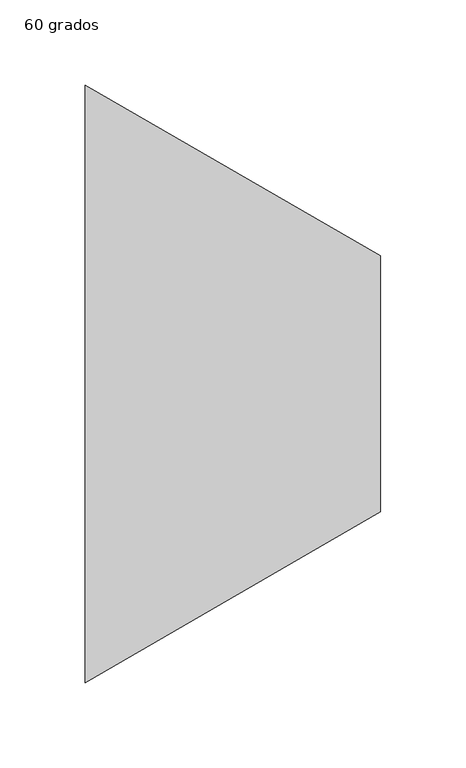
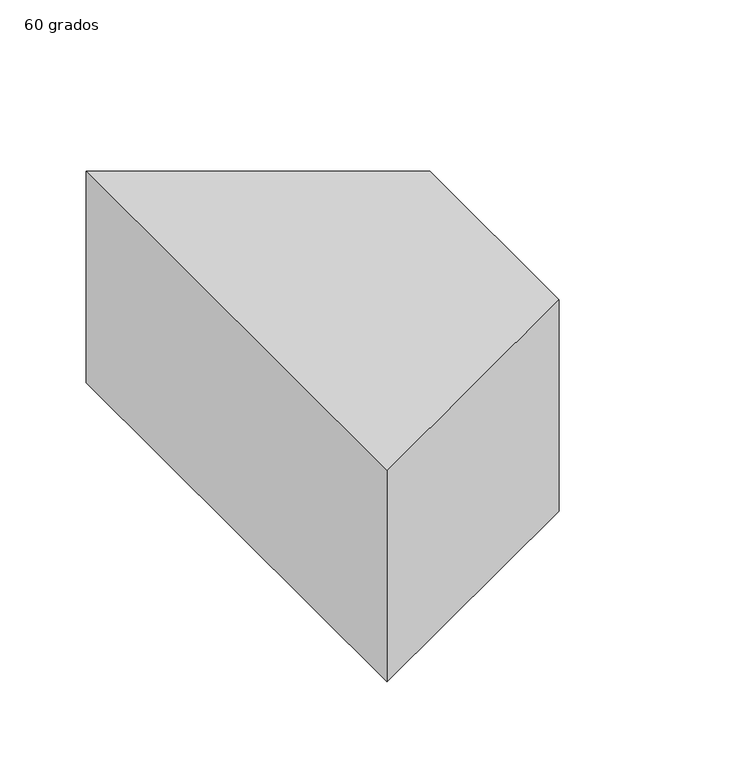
"""IFC4 building model written with IfcOpenShell, lengths in millimetres: duct fitting geometry, M_Transición rectangular - Ángulo : 60 grados."""

from ifc_helpers import new_model, si_unit, frame, origin, place, context, project, spatial, polyline, outline, extrude, source, transform, mapped, element, save


def duct_fitting_60_grados_7a61e9ba(model_context):
    return source(origin(), model_context, "Body", "SweptSolid", [
        extrude(outline(polyline([(0.0, -175.0), (0.0, 175.0), (173.2050808, 75.0), (173.2050808, -75.0), (0.0, -175.0)])), frame((0.0, 0.0, -75.0), z_axis=(0.0, 0.0, 1.0), x_axis=(1.0, 0.0, 0.0)), (0.0, 0.0, 1.0), 150.0),
    ])


if __name__ == "__main__":
    model = new_model("IFC4")
    model_context = context("Model", 3, world=origin())
    ifc_project = project(units=[si_unit("LENGTHUNIT", "METRE", prefix="MILLI")], contexts=[model_context])
    site = spatial("IfcSite", under=ifc_project)
    building = spatial("IfcBuilding", under=site)
    placement = place(None, origin())
    duct_fitting_60_grados_shape = duct_fitting_60_grados_7a61e9ba(model_context)
    element("IfcDuctFitting", 1, ObjectType="M_Transición rectangular - Ángulo : 60 grados", at=placement, inside=building, context=model_context, shape_type="MappedRepresentation", body=[
        mapped(duct_fitting_60_grados_shape, transform((0.0, 0.0, 0.0), x_axis=(1.0, 0.0, 0.0), y_axis=(0.0, 1.0, 0.0), z_axis=(0.0, 0.0, 1.0))),
    ])
    save(model, "model.ifc")
